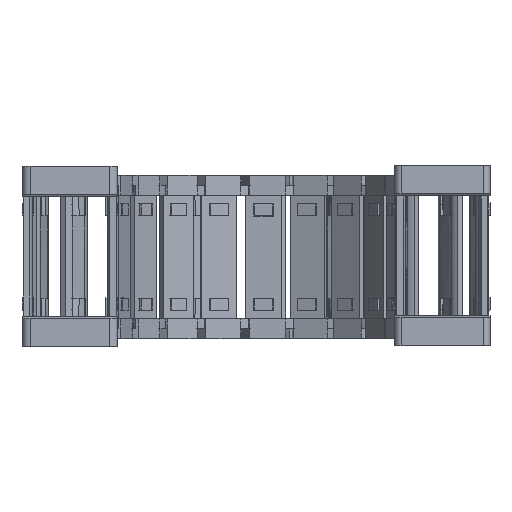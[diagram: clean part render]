
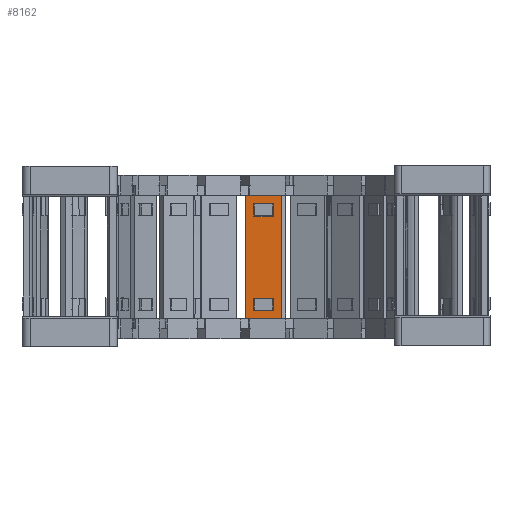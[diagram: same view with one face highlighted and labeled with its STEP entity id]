
A CAD part, top view. The second image highlights one B-rep face of the part: STEP entity #8162.
In plain terms, the highlighted planar face has unit normal (-0.044, 0, 0.999).
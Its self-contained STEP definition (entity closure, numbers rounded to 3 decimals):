
#8162=ADVANCED_FACE('',(#34153,#34154,#34155),#12009,.F.);
#12009=PLANE('',#94497);
#18798=LINE('',#136860,#28174);
#18852=LINE('',#137019,#28228);
#18917=LINE('',#137379,#28293);
#18918=LINE('',#137381,#28294);
#18922=LINE('',#137389,#28298);
#19015=LINE('',#137690,#28391);
#19049=LINE('',#137800,#28425);
#19098=LINE('',#138124,#28474);
#19102=LINE('',#138136,#28478);
#19113=LINE('',#138161,#28489);
#19117=LINE('',#138168,#28493);
#19119=LINE('',#138172,#28495);
#19124=LINE('',#138202,#28500);
#19128=LINE('',#138212,#28504);
#19133=LINE('',#138244,#28509);
#19134=LINE('',#138245,#28510);
#19135=LINE('',#138246,#28511);
#19136=LINE('',#138248,#28512);
#28174=VECTOR('',#107755,1.);
#28228=VECTOR('',#107845,1.);
#28293=VECTOR('',#108062,1.);
#28294=VECTOR('',#108065,1.);
#28298=VECTOR('',#108071,1.);
#28391=VECTOR('',#108280,1.);
#28425=VECTOR('',#108338,1.);
#28474=VECTOR('',#108521,1.);
#28478=VECTOR('',#108531,1.);
#28489=VECTOR('',#108552,1.);
#28493=VECTOR('',#108558,1.);
#28495=VECTOR('',#108562,1.);
#28500=VECTOR('',#108575,1.);
#28504=VECTOR('',#108585,1.);
#28509=VECTOR('',#108604,1.);
#28510=VECTOR('',#108605,1.);
#28511=VECTOR('',#108606,1.);
#28512=VECTOR('',#108607,1.);
#34153=FACE_BOUND('',#36376,.T.);
#34154=FACE_BOUND('',#36377,.T.);
#34155=FACE_BOUND('',#36378,.T.);
#36376=EDGE_LOOP('',(#50539,#50540,#50541,#50542,#50543,#50544));
#36377=EDGE_LOOP('',(#50545,#50546,#50547,#50548,#50549,#50550));
#36378=EDGE_LOOP('',(#50551,#50552,#50553,#50554,#50555,#50556));
#50539=ORIENTED_EDGE('',*,*,#81401,.T.);
#50540=ORIENTED_EDGE('',*,*,#81349,.F.);
#50541=ORIENTED_EDGE('',*,*,#81216,.F.);
#50542=ORIENTED_EDGE('',*,*,#81373,.F.);
#50543=ORIENTED_EDGE('',*,*,#80906,.F.);
#50544=ORIENTED_EDGE('',*,*,#81083,.F.);
#50545=ORIENTED_EDGE('',*,*,#81402,.F.);
#50546=ORIENTED_EDGE('',*,*,#81383,.T.);
#50547=ORIENTED_EDGE('',*,*,#81371,.T.);
#50548=ORIENTED_EDGE('',*,*,#81355,.F.);
#50549=ORIENTED_EDGE('',*,*,#81258,.F.);
#50550=ORIENTED_EDGE('',*,*,#81388,.F.);
#50551=ORIENTED_EDGE('',*,*,#81084,.F.);
#50552=ORIENTED_EDGE('',*,*,#81367,.T.);
#50553=ORIENTED_EDGE('',*,*,#81403,.T.);
#50554=ORIENTED_EDGE('',*,*,#81404,.F.);
#50555=ORIENTED_EDGE('',*,*,#81088,.F.);
#50556=ORIENTED_EDGE('',*,*,#80972,.F.);
#70000=VERTEX_POINT('',#136859);
#70001=VERTEX_POINT('',#136861);
#70027=VERTEX_POINT('',#136943);
#70053=VERTEX_POINT('',#137006);
#70118=VERTEX_POINT('',#137378);
#70119=VERTEX_POINT('',#137382);
#70122=VERTEX_POINT('',#137390);
#70209=VERTEX_POINT('',#137689);
#70210=VERTEX_POINT('',#137691);
#70230=VERTEX_POINT('',#137762);
#70244=VERTEX_POINT('',#137792);
#70296=VERTEX_POINT('',#138125);
#70301=VERTEX_POINT('',#138137);
#70309=VERTEX_POINT('',#138160);
#70312=VERTEX_POINT('',#138169);
#70318=VERTEX_POINT('',#138203);
#70320=VERTEX_POINT('',#138211);
#70325=VERTEX_POINT('',#138247);
#80906=EDGE_CURVE('',#70000,#70001,#18798,.T.);
#80972=EDGE_CURVE('',#70053,#70027,#18852,.T.);
#81083=EDGE_CURVE('',#70118,#70000,#18917,.T.);
#81084=EDGE_CURVE('',#70119,#70053,#18918,.T.);
#81088=EDGE_CURVE('',#70027,#70122,#18922,.T.);
#81216=EDGE_CURVE('',#70209,#70210,#19015,.T.);
#81258=EDGE_CURVE('',#70230,#70244,#19049,.T.);
#81349=EDGE_CURVE('',#70210,#70296,#19098,.T.);
#81355=EDGE_CURVE('',#70244,#70301,#19102,.T.);
#81367=EDGE_CURVE('',#70119,#70309,#19113,.T.);
#81371=EDGE_CURVE('',#70312,#70301,#19117,.T.);
#81373=EDGE_CURVE('',#70001,#70209,#19119,.T.);
#81383=EDGE_CURVE('',#70318,#70312,#19124,.T.);
#81388=EDGE_CURVE('',#70320,#70230,#19128,.T.);
#81401=EDGE_CURVE('',#70118,#70296,#19133,.T.);
#81402=EDGE_CURVE('',#70318,#70320,#19134,.T.);
#81403=EDGE_CURVE('',#70309,#70325,#19135,.T.);
#81404=EDGE_CURVE('',#70122,#70325,#19136,.T.);
#94497=AXIS2_PLACEMENT_3D('',#138249,#108608,#108609);
#107755=DIRECTION('',(0.999,0.,0.044));
#107845=DIRECTION('',(-0.999,0.,-0.044));
#108062=DIRECTION('',(0.999,0.,0.044));
#108065=DIRECTION('',(-0.999,0.,-0.044));
#108071=DIRECTION('',(-0.999,0.,-0.044));
#108280=DIRECTION('',(-0.999,0.,-0.044));
#108338=DIRECTION('',(0.999,0.,0.044));
#108521=DIRECTION('',(-0.999,0.,-0.044));
#108531=DIRECTION('',(0.999,0.,0.044));
#108552=DIRECTION('',(0.,-1.,0.));
#108558=DIRECTION('',(0.,-1.,0.));
#108562=DIRECTION('',(0.,-1.,0.));
#108575=DIRECTION('',(0.999,0.,0.044));
#108585=DIRECTION('',(0.999,0.,0.044));
#108604=DIRECTION('',(0.,-1.,0.));
#108605=DIRECTION('',(0.,-1.,0.));
#108606=DIRECTION('',(-0.999,0.,-0.044));
#108607=DIRECTION('',(0.,-1.,0.));
#108608=DIRECTION('',(0.044,0.,-0.999));
#108609=DIRECTION('',(0.999,0.,0.044));
#136859=CARTESIAN_POINT('',(402.05,134.434,711.867));
#136860=CARTESIAN_POINT('',(401.714,134.434,711.853));
#136861=CARTESIAN_POINT('',(412.104,134.434,712.306));
#136943=CARTESIAN_POINT('',(403.765,131.822,711.942));
#137006=CARTESIAN_POINT('',(409.453,131.822,712.191));
#137019=CARTESIAN_POINT('',(409.627,131.822,712.198));
#137378=CARTESIAN_POINT('',(401.114,134.434,711.827));
#137379=CARTESIAN_POINT('',(401.714,134.434,711.853));
#137381=CARTESIAN_POINT('',(409.627,131.822,712.198));
#137382=CARTESIAN_POINT('',(409.627,131.822,712.198));
#137389=CARTESIAN_POINT('',(409.627,131.822,712.198));
#137390=CARTESIAN_POINT('',(403.591,131.822,711.935));
#137689=CARTESIAN_POINT('',(412.104,96.934,712.306));
#137690=CARTESIAN_POINT('',(401.714,96.934,711.853));
#137691=CARTESIAN_POINT('',(402.05,96.934,711.867));
#137762=CARTESIAN_POINT('',(403.765,99.545,711.942));
#137792=CARTESIAN_POINT('',(409.453,99.545,712.191));
#137800=CARTESIAN_POINT('',(409.627,99.545,712.198));
#138124=CARTESIAN_POINT('',(401.714,96.934,711.853));
#138125=CARTESIAN_POINT('',(401.114,96.934,711.827));
#138136=CARTESIAN_POINT('',(409.627,99.545,712.198));
#138137=CARTESIAN_POINT('',(409.627,99.545,712.198));
#138160=CARTESIAN_POINT('',(409.627,128.15,712.198));
#138161=CARTESIAN_POINT('',(409.627,146.919,712.198));
#138168=CARTESIAN_POINT('',(409.627,84.448,712.198));
#138169=CARTESIAN_POINT('',(409.627,103.218,712.198));
#138172=CARTESIAN_POINT('',(412.104,66.448,712.306));
#138202=CARTESIAN_POINT('',(409.627,103.218,712.198));
#138203=CARTESIAN_POINT('',(403.591,103.218,711.935));
#138211=CARTESIAN_POINT('',(403.591,99.545,711.935));
#138212=CARTESIAN_POINT('',(409.627,99.545,712.198));
#138244=CARTESIAN_POINT('',(401.114,66.448,711.827));
#138245=CARTESIAN_POINT('',(403.591,84.448,711.935));
#138246=CARTESIAN_POINT('',(409.627,128.15,712.198));
#138247=CARTESIAN_POINT('',(403.591,128.15,711.935));
#138248=CARTESIAN_POINT('',(403.591,146.919,711.935));
#138249=CARTESIAN_POINT('',(399.637,66.448,711.762));
